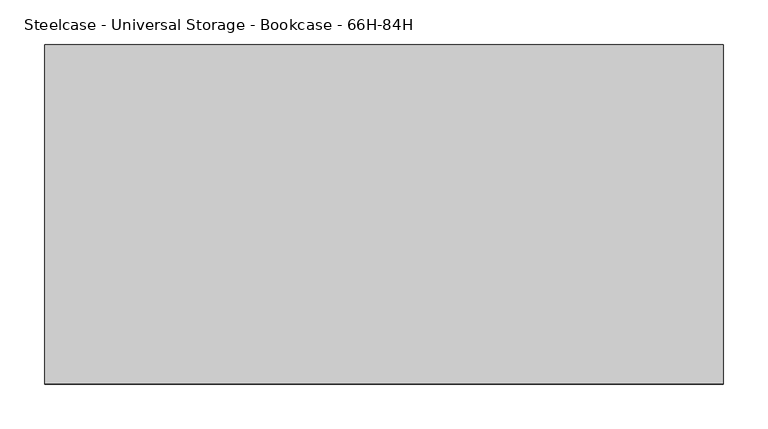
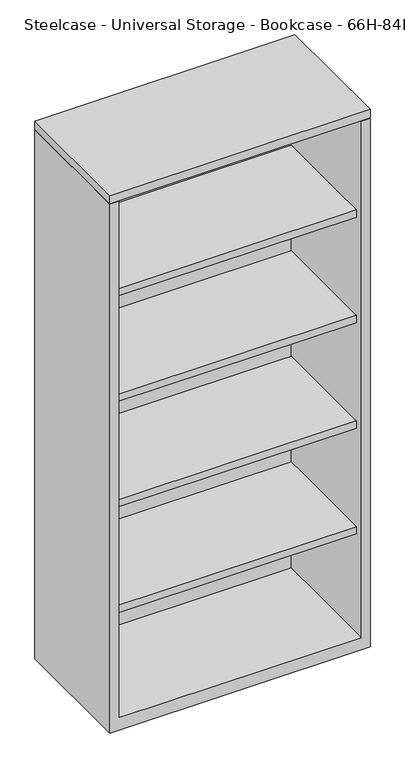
"""IFC4 building model written with IfcOpenShell, lengths in millimetres: furniture geometry, Steelcase - Universal Storage - Bookcase - 66H-84H : 65 1/2H x 30W."""

from ifc_helpers import new_model, si_unit, frame, origin, place, context, project, spatial, polyline, outline, extrude, faceted_brep, source, transform, mapped, element, save


def steelcase_universal_storage_bookcase_66h_84h_756a64a8(model_context):
    return source(origin(), model_context, "Body", "SolidModel", [
        extrude(outline(polyline([(762.0, -98.552), (762.0, -479.552), (0.0, -479.552), (0.0, -98.552), (762.0, -98.552)])), frame((0.0, 0.0, 1639.8239516), z_axis=(0.0, 0.0, 1.0), x_axis=(1.0, 0.0, 0.0)), (0.0, 0.0, 1.0), 25.4000484),
        extrude(outline(polyline([(736.6000242, -123.9520008), (736.6000242, -454.0250121), (25.4000008, -454.0250121), (25.4000008, -123.9520008), (736.6000242, -123.9520008)])), frame((0.0, 0.0, 344.424), z_axis=(0.0, 0.0, 1.0), x_axis=(1.0, 0.0, 0.0)), (0.0, 0.0, 1.0), 22.2249516),
        extrude(outline(polyline([(736.6000242, -123.9520008), (736.6000242, -454.0250121), (25.4000008, -454.0250121), (25.4000008, -123.9520008), (736.6000242, -123.9520008)])), frame((0.0, 0.0, 671.4489516), z_axis=(0.0, 0.0, 1.0), x_axis=(1.0, 0.0, 0.0)), (0.0, 0.0, 1.0), 22.2249516),
        extrude(outline(polyline([(736.6000242, -123.9520008), (736.6000242, -454.0250121), (25.4000008, -454.0250121), (25.4000008, -123.9520008), (736.6000242, -123.9520008)])), frame((0.0, 0.0, 998.4739031), z_axis=(0.0, 0.0, 1.0), x_axis=(1.0, 0.0, 0.0)), (0.0, 0.0, 1.0), 22.2249516),
        extrude(outline(polyline([(736.6000242, -123.9520008), (736.6000242, -454.0250121), (25.4000008, -454.0250121), (25.4000008, -123.9520008), (736.6000242, -123.9520008)])), frame((0.0, 0.0, 1325.4988547), z_axis=(0.0, 0.0, 1.0), x_axis=(1.0, 0.0, 0.0)), (0.0, 0.0, 1.0), 22.2249516),
        faceted_brep([(25.4000008, -479.552, 38.1), (736.6000242, -479.552, 38.1), (736.6000242, -123.9520008, 38.1), (25.4000008, -123.9520008, 38.1), (762.0, -98.552, 0.0), (762.0, -479.552, 0.0), (0.0, -479.552, 0.0), (0.0, -98.552, 0.0), (0.0, -98.552, 1638.3), (762.0, -98.552, 1638.3), (0.0, -479.552, 1638.3), (762.0, -479.552, 1638.3), (736.6000242, -479.552, 1638.3), (25.4000008, -479.552, 1638.3), (736.6000242, -123.9520008, 1638.3), (25.4000008, -123.9520008, 1638.3)], [[[0, 1, 2, 3]], [[4, 5, 6, 7]], [[4, 7, 8, 9]], [[8, 7, 6, 10]], [[10, 6, 5, 11, 12, 1, 0, 13]], [[11, 5, 4, 9]], [[14, 12, 11, 9, 8, 10, 13, 15]], [[12, 14, 2, 1]], [[15, 13, 0, 3]], [[14, 15, 3, 2]]]),
    ])


if __name__ == "__main__":
    model = new_model("IFC4")
    model_context = context("Model", 3, world=origin())
    ifc_project = project(units=[si_unit("LENGTHUNIT", "METRE", prefix="MILLI")], contexts=[model_context])
    site = spatial("IfcSite", under=ifc_project)
    building = spatial("IfcBuilding", under=site)
    placement = place(None, origin())
    steelcase_universal_storage_bookcase_66h_84h_shape = steelcase_universal_storage_bookcase_66h_84h_756a64a8(model_context)
    element("IfcFurniture", 1, ObjectType="Steelcase - Universal Storage - Bookcase - 66H-84H : 65 1/2H x 30W", at=placement, inside=building, context=model_context, shape_type="MappedRepresentation", body=[
        mapped(steelcase_universal_storage_bookcase_66h_84h_shape, transform((0.0, 0.0, 0.0), x_axis=(1.0, 0.0, 0.0), y_axis=(0.0, 1.0, 0.0), z_axis=(0.0, 0.0, 1.0))),
    ])
    save(model, "model.ifc")
